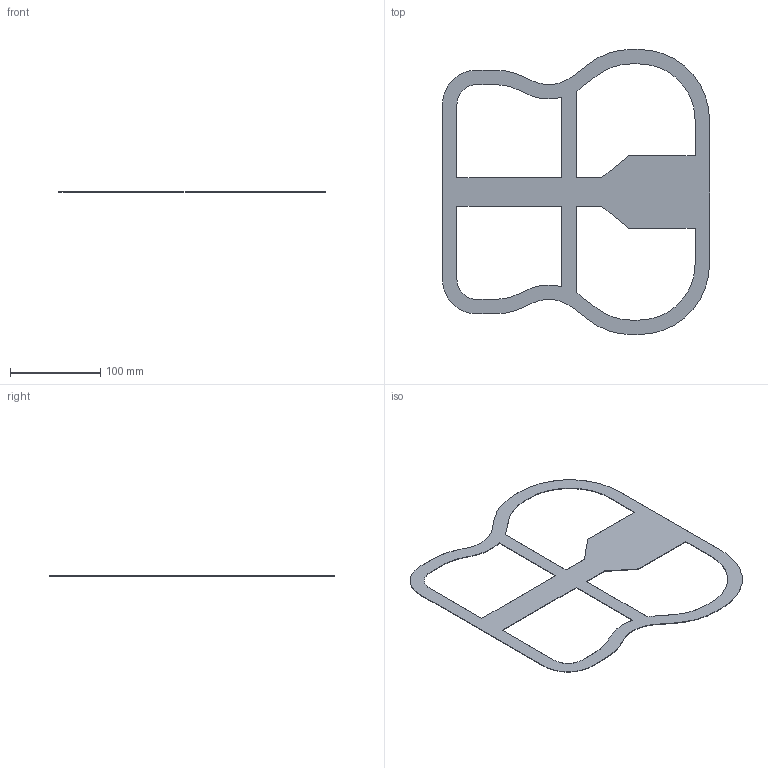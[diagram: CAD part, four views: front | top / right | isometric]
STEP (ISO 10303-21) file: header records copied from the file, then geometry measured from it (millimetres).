
FILE_DESCRIPTION(('STEP AP203'), '1');
FILE_NAME('鸆摠鍙', '', ('UNSPECIFIED'), ('UNSPECIFIED'), 'ASCON STEP Converter 1.3', 'ASCON Math Kernel', '');
FILE_SCHEMA(('CONFIG_CONTROL_DESIGN'));
Length unit declared in the file: millimetre
Bounding box: 296 x 316 x 0.6 mm (x, y, z)
Volume: 19502.4 mm3; surface area: 66714.4 mm2
Topology: 1 solids, 1 shells, 58 faces, 168 edges, 112 vertices
Faces by surface type: plane 36, cylinder 22
Entity records: 2440 total; most frequent: CARTESIAN_POINT 339, ORIENTED_EDGE 336, DIRECTION 330, EDGE_CURVE 168, LINE 124, VECTOR 124, VERTEX_POINT 112, AXIS2_PLACEMENT_3D 103
